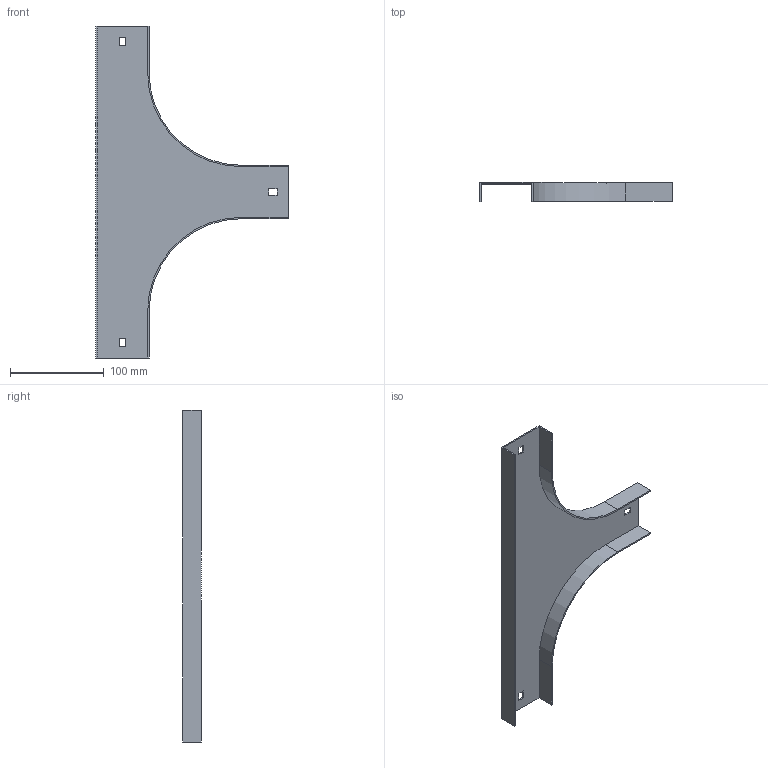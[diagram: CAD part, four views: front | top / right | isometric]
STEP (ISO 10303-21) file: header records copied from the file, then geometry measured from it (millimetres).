
FILE_DESCRIPTION (( 'STEP AP214' ), '1' );
FILE_NAME ('15N1R050.step', '2025-02-21T09:51:39', ( '' ), ( '' ), 'SwSTEP 2.0', 'SolidWorks 2023', '' );
FILE_SCHEMA (( 'AUTOMOTIVE_DESIGN' ));
Length unit declared in the file: millimetre
Products named in the file (1): 15N1R050
Bounding box: 205.5 x 20 x 354 mm (x, y, z)
Volume: 72972.9 mm3; surface area: 99154.9 mm2
Topology: 1 solids, 1 shells, 34 faces, 96 edges, 64 vertices
Faces by surface type: plane 30, cylinder 4
Entity records: 1123 total; most frequent: CARTESIAN_POINT 195, ORIENTED_EDGE 192, DIRECTION 174, EDGE_CURVE 96, LINE 88, VECTOR 88, VERTEX_POINT 64, AXIS2_PLACEMENT_3D 43
